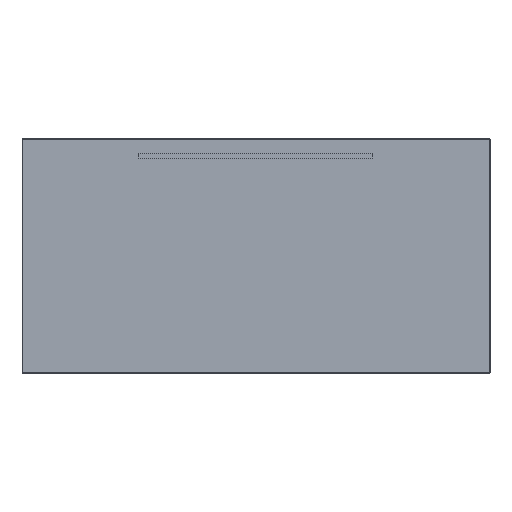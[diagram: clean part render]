
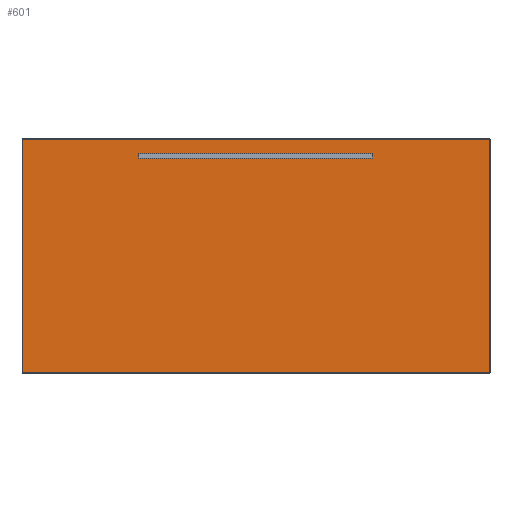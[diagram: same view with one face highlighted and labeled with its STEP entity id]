
A CAD part, top view. The second image highlights one B-rep face of the part: STEP entity #601.
In plain terms, the highlighted planar face has unit normal (0, 0, 1).
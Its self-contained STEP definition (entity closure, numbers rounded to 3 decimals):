
#38 = LINE ( 'NONE', #105, #358 ) ;
#88 = ORIENTED_EDGE ( 'NONE', *, *, #1728, .F. ) ;
#105 = CARTESIAN_POINT ( 'NONE',  ( -400., 350., 4. ) ) ;
#116 = CARTESIAN_POINT ( 'NONE',  ( 799.5, 0., 4. ) ) ;
#118 = EDGE_LOOP ( 'NONE', ( #120, #88, #584, #1644 ) ) ;
#120 = ORIENTED_EDGE ( 'NONE', *, *, #566, .F. ) ;
#139 = CARTESIAN_POINT ( 'NONE',  ( -799.5, -399.5, 4. ) ) ;
#143 = DIRECTION ( 'NONE',  ( 0., 0., -1. ) ) ;
#211 = EDGE_CURVE ( 'NONE', #1774, #1199, #777, .T. ) ;
#353 = AXIS2_PLACEMENT_3D ( 'NONE', #1301, #143, #1585 ) ;
#358 = VECTOR ( 'NONE', #384, 1000. ) ;
#384 = DIRECTION ( 'NONE',  ( 0., -1., 0. ) ) ;
#389 = FACE_BOUND ( 'NONE', #118, .T. ) ;
#412 = EDGE_CURVE ( 'NONE', #1134, #1540, #814, .T. ) ;
#435 = DIRECTION ( 'NONE',  ( 1., 0., 0. ) ) ;
#442 = LINE ( 'NONE', #1175, #1151 ) ;
#489 = VECTOR ( 'NONE', #1834, 1000. ) ;
#495 = ORIENTED_EDGE ( 'NONE', *, *, #1746, .T. ) ;
#566 = EDGE_CURVE ( 'NONE', #887, #1774, #1638, .T. ) ;
#584 = ORIENTED_EDGE ( 'NONE', *, *, #603, .F. ) ;
#595 = CARTESIAN_POINT ( 'NONE',  ( -400., 335., 4. ) ) ;
#601 = ADVANCED_FACE ( 'NONE', ( #389, #1214 ), #1575, .F. ) ;
#603 = EDGE_CURVE ( 'NONE', #1199, #655, #442, .T. ) ;
#624 = DIRECTION ( 'NONE',  ( -1., 0., 0. ) ) ;
#655 = VERTEX_POINT ( 'NONE', #1464 ) ;
#660 = EDGE_LOOP ( 'NONE', ( #495, #953, #1049, #1360 ) ) ;
#755 = VECTOR ( 'NONE', #908, 1000. ) ;
#777 = LINE ( 'NONE', #781, #755 ) ;
#781 = CARTESIAN_POINT ( 'NONE',  ( 400., 350., 4. ) ) ;
#797 = VERTEX_POINT ( 'NONE', #1431 ) ;
#814 = LINE ( 'NONE', #829, #489 ) ;
#819 = CARTESIAN_POINT ( 'NONE',  ( 799.5, -399.5, 4. ) ) ;
#829 = CARTESIAN_POINT ( 'NONE',  ( 0., -399.5, 4. ) ) ;
#856 = LINE ( 'NONE', #943, #1530 ) ;
#887 = VERTEX_POINT ( 'NONE', #1514 ) ;
#902 = EDGE_CURVE ( 'NONE', #1461, #797, #1614, .T. ) ;
#908 = DIRECTION ( 'NONE',  ( 0., 1., 0. ) ) ;
#943 = CARTESIAN_POINT ( 'NONE',  ( -799.5, 0., 4. ) ) ;
#953 = ORIENTED_EDGE ( 'NONE', *, *, #902, .T. ) ;
#1049 = ORIENTED_EDGE ( 'NONE', *, *, #1607, .T. ) ;
#1054 = CARTESIAN_POINT ( 'NONE',  ( 400., 350., 4. ) ) ;
#1134 = VERTEX_POINT ( 'NONE', #139 ) ;
#1151 = VECTOR ( 'NONE', #624, 1000. ) ;
#1175 = CARTESIAN_POINT ( 'NONE',  ( -400., 350., 4. ) ) ;
#1188 = LINE ( 'NONE', #116, #1870 ) ;
#1199 = VERTEX_POINT ( 'NONE', #1054 ) ;
#1201 = CARTESIAN_POINT ( 'NONE',  ( 799.5, 399.5, 4. ) ) ;
#1214 = FACE_OUTER_BOUND ( 'NONE', #660, .T. ) ;
#1301 = CARTESIAN_POINT ( 'NONE',  ( 0., 0., 4. ) ) ;
#1357 = DIRECTION ( 'NONE',  ( 0., -1., 0. ) ) ;
#1360 = ORIENTED_EDGE ( 'NONE', *, *, #412, .T. ) ;
#1371 = CARTESIAN_POINT ( 'NONE',  ( 0., 399.5, 4. ) ) ;
#1431 = CARTESIAN_POINT ( 'NONE',  ( -799.5, 399.5, 4. ) ) ;
#1461 = VERTEX_POINT ( 'NONE', #1201 ) ;
#1464 = CARTESIAN_POINT ( 'NONE',  ( -400., 350., 4. ) ) ;
#1514 = CARTESIAN_POINT ( 'NONE',  ( -400., 335., 4. ) ) ;
#1530 = VECTOR ( 'NONE', #1357, 1000. ) ;
#1540 = VERTEX_POINT ( 'NONE', #819 ) ;
#1575 = PLANE ( 'NONE',  #353 ) ;
#1585 = DIRECTION ( 'NONE',  ( -1., 0., 0. ) ) ;
#1607 = EDGE_CURVE ( 'NONE', #797, #1134, #856, .T. ) ;
#1614 = LINE ( 'NONE', #1371, #1725 ) ;
#1638 = LINE ( 'NONE', #595, #1849 ) ;
#1644 = ORIENTED_EDGE ( 'NONE', *, *, #211, .F. ) ;
#1725 = VECTOR ( 'NONE', #1861, 1000. ) ;
#1728 = EDGE_CURVE ( 'NONE', #655, #887, #38, .T. ) ;
#1746 = EDGE_CURVE ( 'NONE', #1540, #1461, #1188, .T. ) ;
#1774 = VERTEX_POINT ( 'NONE', #1891 ) ;
#1834 = DIRECTION ( 'NONE',  ( 1., 0., 0. ) ) ;
#1849 = VECTOR ( 'NONE', #435, 1000. ) ;
#1861 = DIRECTION ( 'NONE',  ( -1., 0., 0. ) ) ;
#1870 = VECTOR ( 'NONE', #1875, 1000. ) ;
#1875 = DIRECTION ( 'NONE',  ( 0., 1., 0. ) ) ;
#1891 = CARTESIAN_POINT ( 'NONE',  ( 400., 335., 4. ) ) ;
